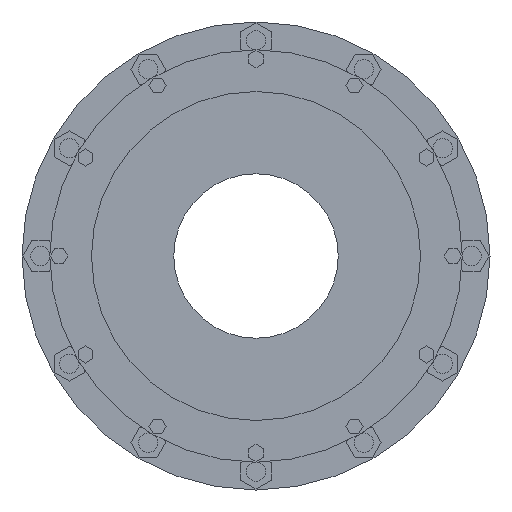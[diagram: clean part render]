
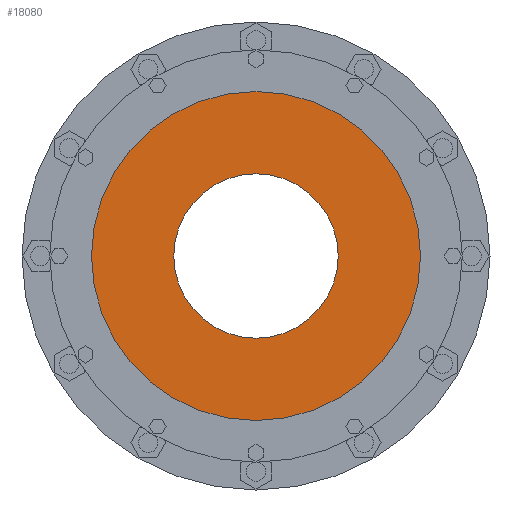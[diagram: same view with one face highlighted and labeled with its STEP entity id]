
A CAD part, left-side view. The second image highlights one B-rep face of the part: STEP entity #18080.
In plain terms, the highlighted planar face has unit normal (-1, 0, 0).
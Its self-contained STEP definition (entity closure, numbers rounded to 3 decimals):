
#17778=CARTESIAN_POINT('',(-903.5,0.,0.));
#17779=DIRECTION('',(1.,0.,0.));
#17780=DIRECTION('',(0.,1.,0.));
#17781=AXIS2_PLACEMENT_3D('',#17778,#17779,#17780);
#17857=CARTESIAN_POINT('',(-903.5,0.,0.));
#17858=DIRECTION('',(-1.,0.,0.));
#17859=DIRECTION('',(0.,1.,0.));
#17860=AXIS2_PLACEMENT_3D('',#17857,#17858,#17859);
#17862=CARTESIAN_POINT('',(-903.5,0.,0.));
#17863=DIRECTION('',(1.,0.,0.));
#17864=DIRECTION('',(0.,1.,0.));
#17865=AXIS2_PLACEMENT_3D('',#17862,#17863,#17864);
#17876=CARTESIAN_POINT('',(-903.5,0.,0.));
#17877=DIRECTION('',(-1.,0.,0.));
#17878=DIRECTION('',(0.,1.,0.));
#17879=AXIS2_PLACEMENT_3D('',#17876,#17877,#17878);
#17885=CARTESIAN_POINT('',(-903.5,177.5,0.));
#17886=CARTESIAN_POINT('',(-903.5,-177.5,0.));
#17887=VERTEX_POINT('',#17885);
#17888=VERTEX_POINT('',#17886);
#17889=CARTESIAN_POINT('',(-903.5,355.,0.));
#17890=CARTESIAN_POINT('',(-903.5,-355.,0.));
#17891=VERTEX_POINT('',#17889);
#17892=VERTEX_POINT('',#17890);
#18066=CARTESIAN_POINT('',(-903.5,0.,0.));
#18067=DIRECTION('',(1.,0.,0.));
#18068=DIRECTION('',(0.,-1.,0.));
#18069=AXIS2_PLACEMENT_3D('',#18066,#18067,#18068);
#18070=PLANE('',#18069);
#18071=ORIENTED_EDGE('',*,*,#18048,.F.);
#18072=ORIENTED_EDGE('',*,*,#18061,.T.);
#18073=EDGE_LOOP('',(#18071,#18072));
#18074=FACE_OUTER_BOUND('',#18073,.F.);
#18075=ORIENTED_EDGE('',*,*,#17926,.F.);
#18077=ORIENTED_EDGE('',*,*,#18076,.T.);
#18078=EDGE_LOOP('',(#18075,#18077));
#18079=FACE_BOUND('',#18078,.F.);
#18080=ADVANCED_FACE('',(#18074,#18079),#18070,.F.);
#17782=CIRCLE('',#17781,177.5);
#17861=CIRCLE('',#17860,355.);
#17866=CIRCLE('',#17865,355.);
#17880=CIRCLE('',#17879,177.5);
#17926=EDGE_CURVE('',#17887,#17888,#17782,.T.);
#18048=EDGE_CURVE('',#17891,#17892,#17861,.T.);
#18061=EDGE_CURVE('',#17891,#17892,#17866,.T.);
#18076=EDGE_CURVE('',#17887,#17888,#17880,.T.);
